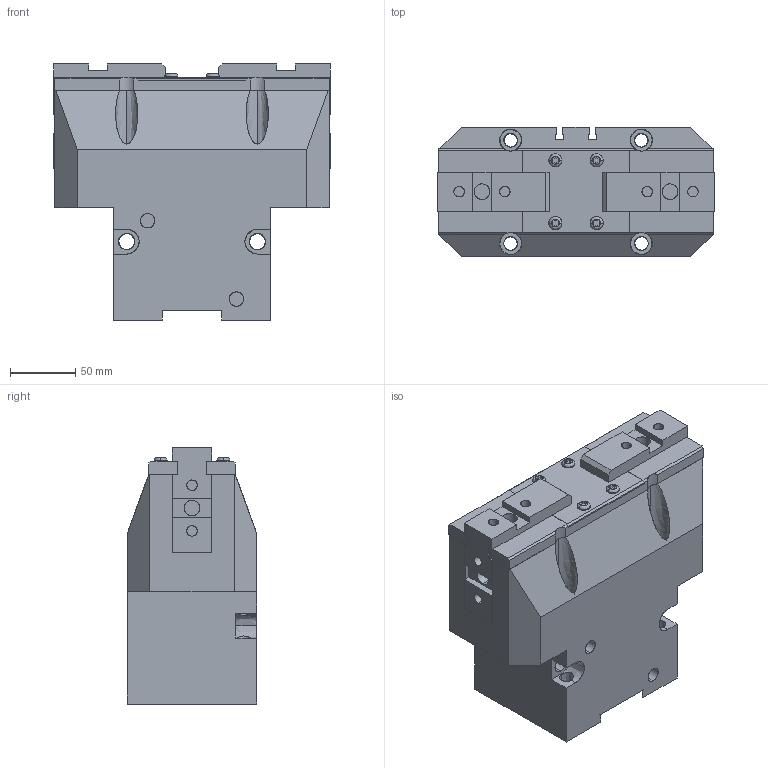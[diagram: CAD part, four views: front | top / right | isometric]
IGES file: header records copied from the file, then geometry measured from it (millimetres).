
Global section: file name: C:\Documents and Settings\Administrateur\Mes documents\OPE-210-S-CLOSED.igs; native system: AutoCAD-16.0s (LMS Tech) (Microsoft Windows NT Version 5.1 (x86)); preprocessor: Autodesk IGES Translator Mechanical Desktop.R7.0.43.0 (Mar 18 2003) from Autodesk, Inc.; date: 20050630.063247; units: millimetre
Bounding box: 212 x 99 x 196 mm (x, y, z)
Surface area: 275811.7 mm2 (no closed solid volume)
Topology: 0 solids, 0 shells, 295 faces, 3194 edges, 3288 vertices
Faces by surface type: bspline 295
